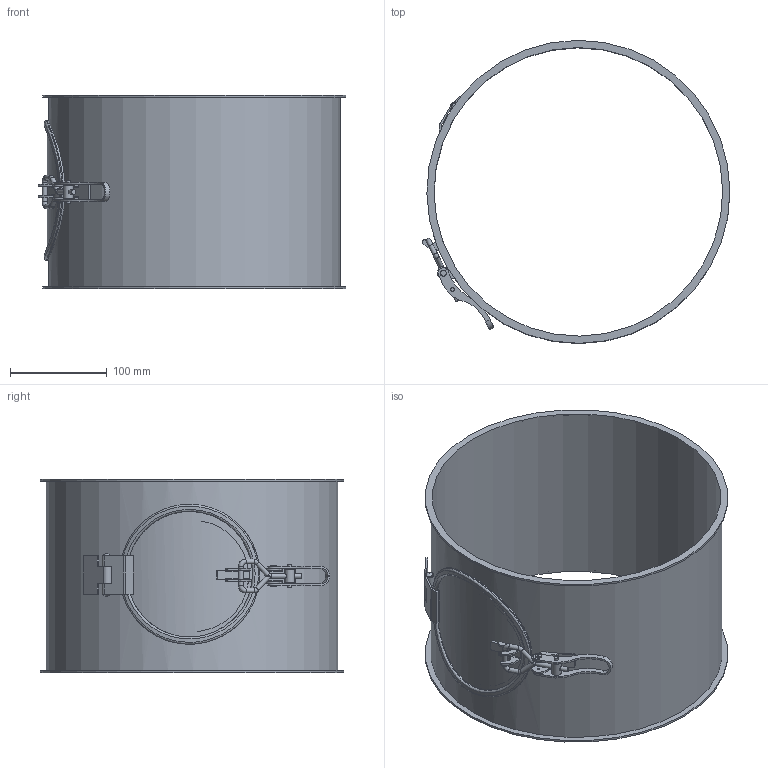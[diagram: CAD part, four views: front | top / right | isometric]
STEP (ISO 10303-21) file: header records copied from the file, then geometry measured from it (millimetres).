
FILE_DESCRIPTION((''),'2;1');
FILE_NAME('U:\Wolfgang\Marcel-3D\fertig\Kapitel 4\3011043.stp','2011-04-21T08:46:58',('TK1'),(''),'Autodesk Inventor 2010','Autodesk Inventor 2010','');
FILE_SCHEMA(('AUTOMOTIVE_DESIGN { 1 0 10303 214 1 1 1 1 }'));
Length unit declared in the file: millimetre
Products named in the file (15): 3011043 (Detailgenauigkeit1); 3011043-1; GelenkDeckel30; GelenkDeckel1c; Deckel30; Deckel30b; GelenkDeckel22a; VerschlussDeckel30; dichtung30; Verschluss30; Verschluss30a; Verschluss1b; Verschluss1c; Verschluss1d; Verschluss1e
Assembly tree (15 placements, depth 3):
  3011043 (Detailgenauigkeit1)
    3011043-1
    GelenkDeckel30
    GelenkDeckel1c
    Deckel30
      Deckel30b
      GelenkDeckel22a
      VerschlussDeckel30
      dichtung30
    Verschluss30
      Verschluss30a
      Verschluss1b
      Verschluss1c
      Verschluss1d  x2
      Verschluss1e
Bounding box: 318.95 x 313.99 x 200 mm (x, y, z)
Volume: 337436.7 mm3; surface area: 441160.5 mm2
Topology: 13 solids, 13 shells, 177 faces, 416 edges, 269 vertices
Faces by surface type: cylinder 81, plane 80, torus 9, bspline 5, sphere 2
Full cylindrical faces by diameter (mm): 2 x4, 4 x4, 5 x6, 6 x6, 6.2 x2, 10 x1, 115 x1, 130 x1, 135 x1, 145 x1, 299 x1, 302 x1, 314 x2
Entity records: 6749 total; most frequent: CARTESIAN_POINT 2492, DIRECTION 862, ORIENTED_EDGE 710, EDGE_CURVE 355, AXIS2_PLACEMENT_3D 341, VERTEX_POINT 252, EDGE_LOOP 241, VECTOR 180
